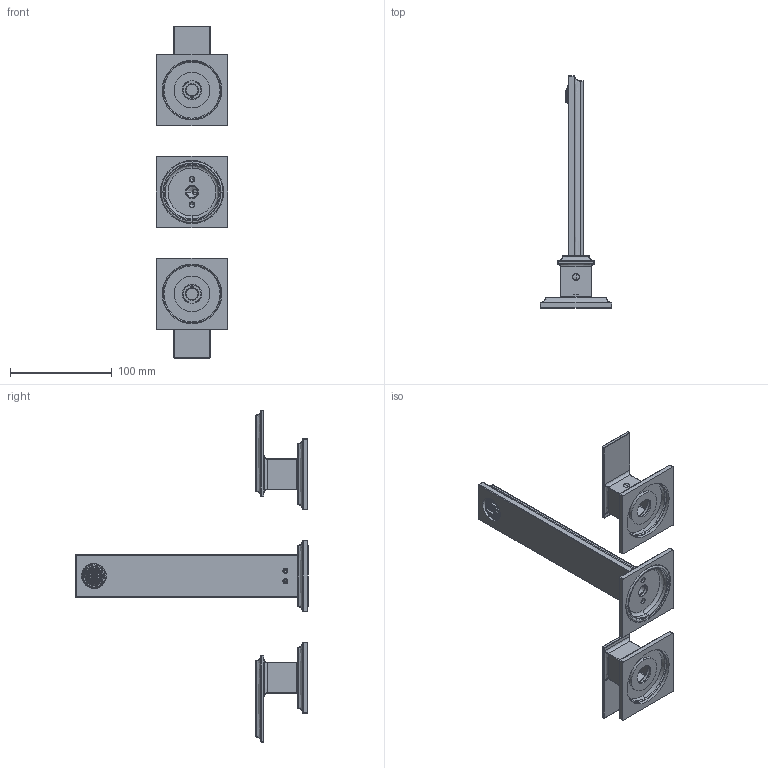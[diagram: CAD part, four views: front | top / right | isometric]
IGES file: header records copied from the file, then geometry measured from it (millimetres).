
Start section:  PTC IGES file: 46090_igs.igs
Global section: file name: 46090_igs.igs; native system: Pro/ENGINEER by Parametric Technology Corporation; preprocessor: 2011490; author: spischedda; organization: Unknown; date: 20140325.174958; units: millimetre
Bounding box: 70 x 228.62 x 326 mm (x, y, z)
Surface area: 105597.7 mm2 (no closed solid volume)
Topology: 0 solids, 0 shells, 947 faces, 7812 edges, 7790 vertices
Faces by surface type: bspline 947
